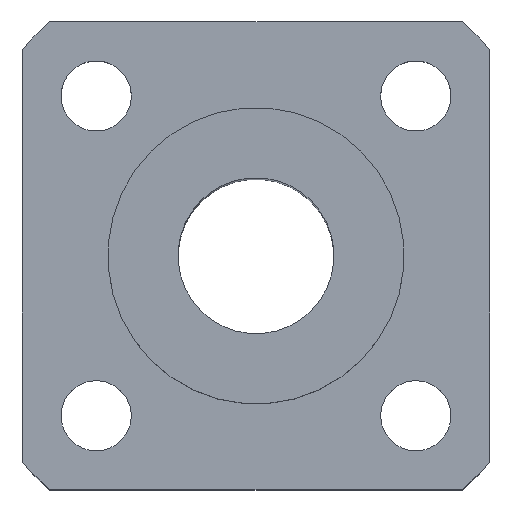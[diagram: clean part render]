
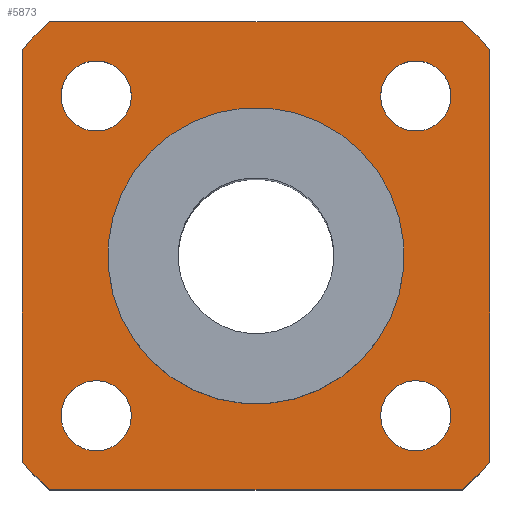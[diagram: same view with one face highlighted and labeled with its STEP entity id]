
A CAD part, top view. The second image highlights one B-rep face of the part: STEP entity #5873.
In plain terms, the highlighted planar face has unit normal (0, 0, 1).
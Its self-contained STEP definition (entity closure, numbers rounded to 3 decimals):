
#112=CIRCLE('',#6230,20.);
#113=CIRCLE('',#6232,20.);
#114=CIRCLE('',#6234,20.);
#124=CIRCLE('',#6250,9.5);
#128=CIRCLE('',#6258,20.);
#129=CIRCLE('',#6260,2.25);
#130=CIRCLE('',#6261,2.25);
#131=CIRCLE('',#6262,2.25);
#132=CIRCLE('',#6263,2.25);
#557=ORIENTED_EDGE('',*,*,#2242,.F.);
#558=ORIENTED_EDGE('',*,*,#2222,.T.);
#559=ORIENTED_EDGE('',*,*,#2243,.F.);
#560=ORIENTED_EDGE('',*,*,#2241,.T.);
#561=ORIENTED_EDGE('',*,*,#2244,.F.);
#562=ORIENTED_EDGE('',*,*,#2224,.T.);
#563=ORIENTED_EDGE('',*,*,#2245,.F.);
#564=ORIENTED_EDGE('',*,*,#2218,.T.);
#565=ORIENTED_EDGE('',*,*,#2246,.F.);
#566=ORIENTED_EDGE('',*,*,#2247,.F.);
#567=ORIENTED_EDGE('',*,*,#2248,.F.);
#568=ORIENTED_EDGE('',*,*,#2249,.F.);
#569=ORIENTED_EDGE('',*,*,#2235,.T.);
#2218=EDGE_CURVE('',#3065,#3064,#112,.T.);
#2222=EDGE_CURVE('',#3066,#3067,#113,.T.);
#2224=EDGE_CURVE('',#3069,#3068,#114,.T.);
#2235=EDGE_CURVE('',#3079,#3079,#124,.F.);
#2241=EDGE_CURVE('',#3083,#3084,#128,.T.);
#2242=EDGE_CURVE('',#3066,#3064,#3584,.T.);
#2243=EDGE_CURVE('',#3083,#3067,#3585,.T.);
#2244=EDGE_CURVE('',#3069,#3084,#3586,.T.);
#2245=EDGE_CURVE('',#3065,#3068,#3587,.T.);
#2246=EDGE_CURVE('',#3085,#3085,#129,.T.);
#2247=EDGE_CURVE('',#3086,#3086,#130,.T.);
#2248=EDGE_CURVE('',#3087,#3087,#131,.T.);
#2249=EDGE_CURVE('',#3088,#3088,#132,.T.);
#3064=VERTEX_POINT('',#9230);
#3065=VERTEX_POINT('',#9232);
#3066=VERTEX_POINT('',#9236);
#3067=VERTEX_POINT('',#9238);
#3068=VERTEX_POINT('',#9242);
#3069=VERTEX_POINT('',#9244);
#3079=VERTEX_POINT('',#9271);
#3083=VERTEX_POINT('',#9283);
#3084=VERTEX_POINT('',#9285);
#3085=VERTEX_POINT('',#9293);
#3086=VERTEX_POINT('',#9295);
#3087=VERTEX_POINT('',#9297);
#3088=VERTEX_POINT('',#9299);
#3584=LINE('',#9288,#4271);
#3585=LINE('',#9289,#4272);
#3586=LINE('',#9290,#4273);
#3587=LINE('',#9291,#4274);
#4271=VECTOR('',#6833,1000.);
#4272=VECTOR('',#6834,1000.);
#4273=VECTOR('',#6835,1000.);
#4274=VECTOR('',#6836,1000.);
#4816=EDGE_LOOP('',(#557,#558,#559,#560,#561,#562,#563,#564));
#4817=EDGE_LOOP('',(#565));
#4818=EDGE_LOOP('',(#566));
#4819=EDGE_LOOP('',(#567));
#4820=EDGE_LOOP('',(#568));
#4821=EDGE_LOOP('',(#569));
#5239=FACE_BOUND('',#4816,.T.);
#5240=FACE_BOUND('',#4817,.T.);
#5241=FACE_BOUND('',#4818,.T.);
#5242=FACE_BOUND('',#4819,.T.);
#5243=FACE_BOUND('',#4820,.T.);
#5244=FACE_BOUND('',#4821,.T.);
#5602=PLANE('',#6259);
#5873=ADVANCED_FACE('',(#5239,#5240,#5241,#5242,#5243,#5244),#5602,.T.);
#6230=AXIS2_PLACEMENT_3D('',#9231,#6766,#6767);
#6232=AXIS2_PLACEMENT_3D('',#9239,#6773,#6774);
#6234=AXIS2_PLACEMENT_3D('',#9243,#6778,#6779);
#6250=AXIS2_PLACEMENT_3D('',#9270,#6811,#6812);
#6258=AXIS2_PLACEMENT_3D('',#9286,#6829,#6830);
#6259=AXIS2_PLACEMENT_3D('',#9287,#6831,#6832);
#6260=AXIS2_PLACEMENT_3D('',#9292,#6837,#6838);
#6261=AXIS2_PLACEMENT_3D('',#9294,#6839,#6840);
#6262=AXIS2_PLACEMENT_3D('',#9296,#6841,#6842);
#6263=AXIS2_PLACEMENT_3D('',#9298,#6843,#6844);
#6766=DIRECTION('',(0.,0.,1.));
#6767=DIRECTION('',(0.707,-0.707,0.));
#6773=DIRECTION('',(0.,0.,1.));
#6774=DIRECTION('',(0.707,-0.707,0.));
#6778=DIRECTION('',(0.,0.,1.));
#6779=DIRECTION('',(0.707,-0.707,0.));
#6811=DIRECTION('',(0.,0.,1.));
#6812=DIRECTION('',(0.707,-0.707,0.));
#6829=DIRECTION('',(0.,0.,1.));
#6830=DIRECTION('',(0.707,-0.707,0.));
#6831=DIRECTION('',(0.,0.,1.));
#6832=DIRECTION('',(0.707,-0.707,0.));
#6833=DIRECTION('',(0.,1.,0.));
#6834=DIRECTION('',(-1.,0.,0.));
#6835=DIRECTION('',(0.,-1.,0.));
#6836=DIRECTION('',(1.,0.,0.));
#6837=DIRECTION('',(0.,0.,1.));
#6838=DIRECTION('',(0.707,-0.707,0.));
#6839=DIRECTION('',(0.,0.,1.));
#6840=DIRECTION('',(0.707,-0.707,0.));
#6841=DIRECTION('',(0.,0.,1.));
#6842=DIRECTION('',(0.707,-0.707,0.));
#6843=DIRECTION('',(0.,0.,1.));
#6844=DIRECTION('',(0.707,-0.707,0.));
#9230=CARTESIAN_POINT('',(-15.,13.229,0.));
#9231=CARTESIAN_POINT('',(0.,0.,0.));
#9232=CARTESIAN_POINT('',(-13.229,15.,0.));
#9236=CARTESIAN_POINT('',(-15.,-13.229,0.));
#9238=CARTESIAN_POINT('',(-13.229,-15.,0.));
#9239=CARTESIAN_POINT('',(0.,0.,0.));
#9242=CARTESIAN_POINT('',(13.229,15.,0.));
#9243=CARTESIAN_POINT('',(0.,0.,0.));
#9244=CARTESIAN_POINT('',(15.,13.229,0.));
#9270=CARTESIAN_POINT('',(0.,0.,0.));
#9271=CARTESIAN_POINT('',(6.718,-6.718,0.));
#9283=CARTESIAN_POINT('',(13.229,-15.,0.));
#9285=CARTESIAN_POINT('',(15.,-13.229,0.));
#9286=CARTESIAN_POINT('',(0.,0.,0.));
#9287=CARTESIAN_POINT('',(0.,0.,0.));
#9288=CARTESIAN_POINT('',(-15.,13.229,0.));
#9289=CARTESIAN_POINT('',(13.229,-15.,0.));
#9290=CARTESIAN_POINT('',(15.,13.229,0.));
#9291=CARTESIAN_POINT('',(13.229,15.,0.));
#9292=CARTESIAN_POINT('',(10.253,10.253,0.));
#9293=CARTESIAN_POINT('',(11.844,8.662,0.));
#9294=CARTESIAN_POINT('',(-10.253,10.253,0.));
#9295=CARTESIAN_POINT('',(-8.662,8.662,0.));
#9296=CARTESIAN_POINT('',(-10.253,-10.253,0.));
#9297=CARTESIAN_POINT('',(-8.662,-11.844,0.));
#9298=CARTESIAN_POINT('',(10.253,-10.253,0.));
#9299=CARTESIAN_POINT('',(11.844,-11.844,0.));
